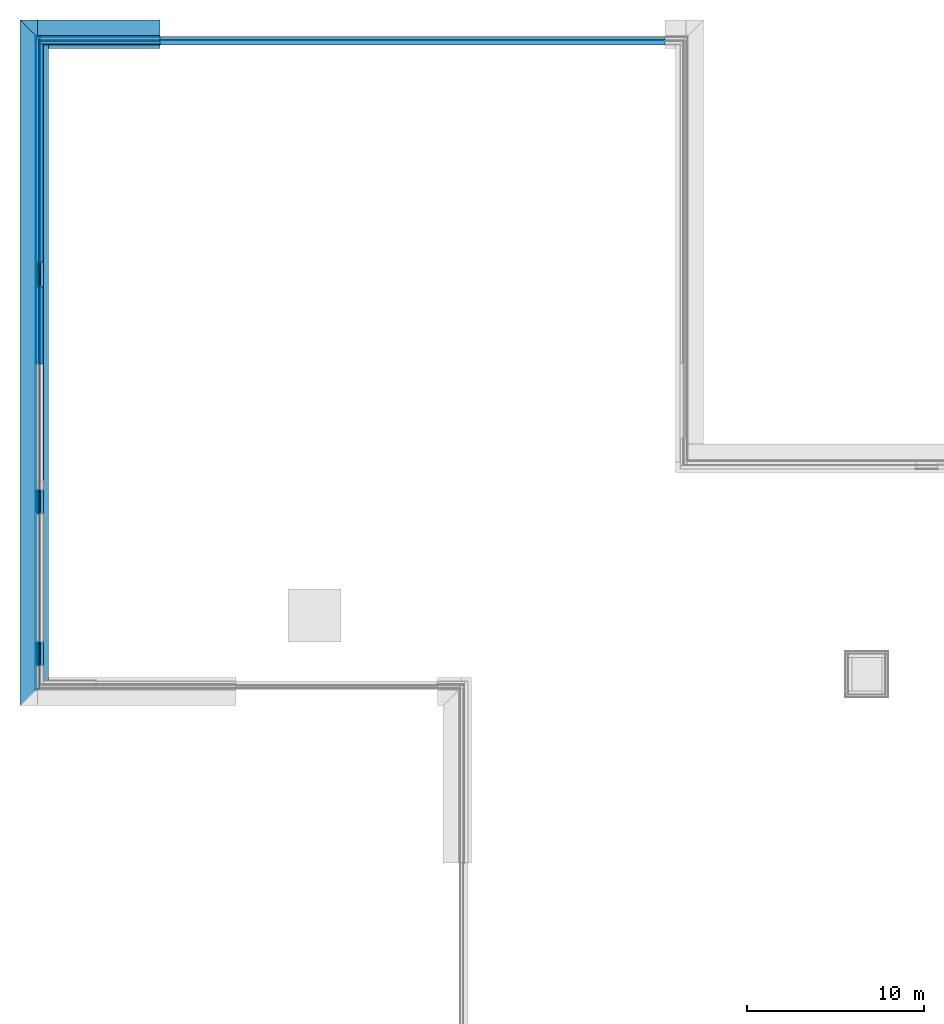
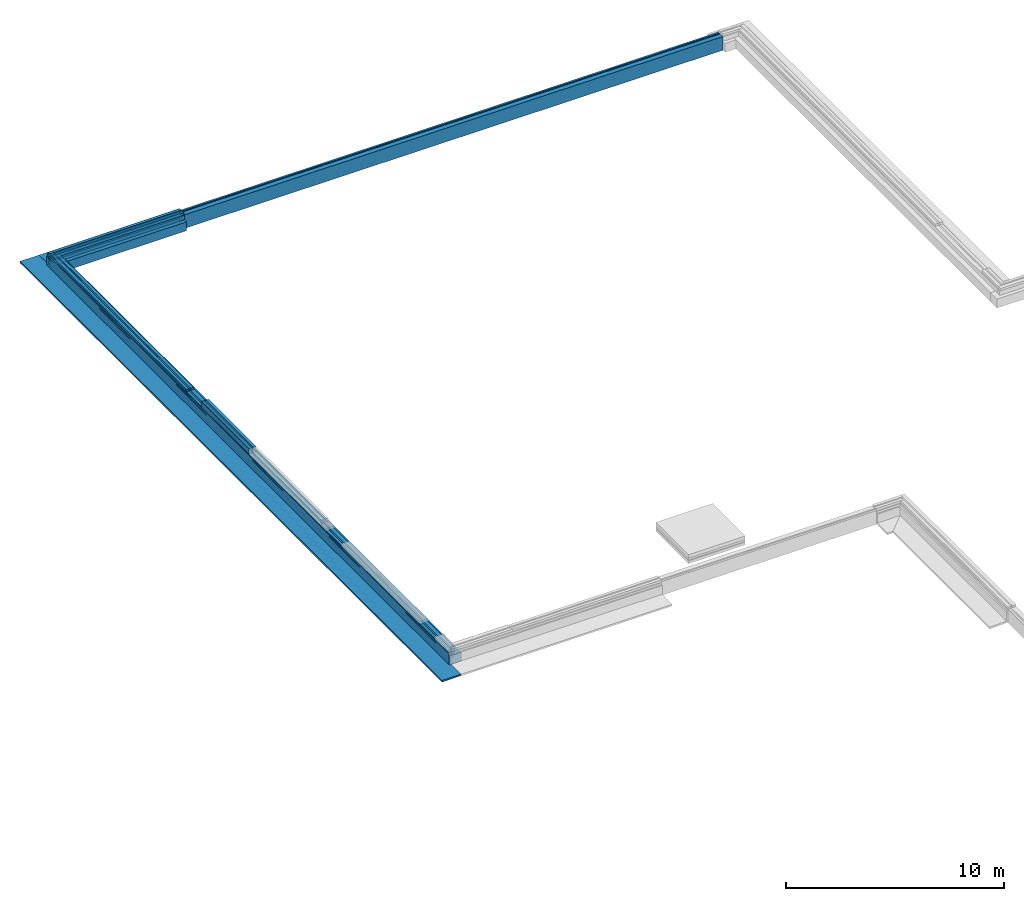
# One storey, part 12 of 17: 39 building element parts, 6 elements without a shape of their own.
"""IFC2X3 building model written with IfcOpenShell, lengths in millimetres."""

import ifcopenshell
import ifcopenshell.guid

model = None  # the IFC model being written
_history = None  # IfcOwnerHistory: only IFC2X3 demands one
_inside = {}  # id of a spatial element -> (the spatial element, [elements in it])
_under = {}  # id of a project, library or spatial element -> (it, [spatial elements below it])
_declared = {}  # id of a project -> (the project, [libraries it declares])
_typed = {}  # id of a type object -> (the type object, [elements of that type])
_made_of = {}  # id of a material, layer set ... -> (it, [elements and type objects made of it])


def new_model(schema):
    """Start an empty IFC model of exactly this schema.

    Asked for "IFC4X3", IfcOpenShell would pick the latest addendum, in which some entities
    have other attributes; the version numbers below select the first issue.
    IFC2X3 requires an IfcOwnerHistory on every rooted entity: one is made here for all.
    """
    global model, _history
    if schema == "IFC4X3":
        model = ifcopenshell.file(schema_version=(4, 3, 0, 0))
    else:
        model = ifcopenshell.file(schema=schema)
    _inside.clear()
    _under.clear()
    _declared.clear()
    _typed.clear()
    _made_of.clear()
    _history = None
    if model.schema == "IFC2X3":
        org = make("IfcOrganization", Name="unknown")
        user = make(
            "IfcPersonAndOrganization",
            ThePerson=make("IfcPerson", FamilyName="unknown"),
            TheOrganization=org,
        )
        app = make(
            "IfcApplication",
            ApplicationDeveloper=org,
            Version="unknown",
            ApplicationFullName="unknown",
            ApplicationIdentifier="unknown",
        )
        _history = make(
            "IfcOwnerHistory",
            OwningUser=user,
            OwningApplication=app,
            ChangeAction="ADDED",
            CreationDate=0,
        )
    return model


def make(cls, **values):
    """One entity of the class cls with the attributes given. An attribute that is None is left unset."""
    return model.create_entity(
        cls, **{name: value for name, value in values.items() if value is not None}
    )


def entity(cls, *values):
    """Any entity or typed value of the class cls, its attributes in the order of the schema. None: left unset."""
    e = model.create_entity(cls)
    for i, value in enumerate(values):
        if value is not None:
            e[i] = value
    return e


def rooted(cls, **values):
    """An entity with a GlobalId (a new one), such as an element, a storey or a relation."""
    return make(cls, GlobalId=ifcopenshell.guid.new(), OwnerHistory=_history, **values)


def si_unit(unit_type, name, prefix=None):
    """IfcSIUnit, for example si_unit("LENGTHUNIT", "METRE", prefix="MILLI")."""
    return make("IfcSIUnit", UnitType=unit_type, Prefix=prefix, Name=name)


def converted_unit(unit_type, name, factor, base, dimensions=None, offset=None):
    """IfcConversionBasedUnit, such as the inch: factor (a typed value) times the base unit."""
    return make(
        "IfcConversionBasedUnit"
        if offset is None
        else "IfcConversionBasedUnitWithOffset",
        ConversionOffset=offset,
        Dimensions=None
        if dimensions is None
        else entity("IfcDimensionalExponents", *dimensions),
        UnitType=unit_type,
        Name=name,
        ConversionFactor=make(
            "IfcMeasureWithUnit", ValueComponent=factor, UnitComponent=base
        ),
    )


def derived_unit(unit_type, elements):
    """IfcDerivedUnit: a product of units, each with its exponent."""
    return make(
        "IfcDerivedUnit",
        Elements=[
            make("IfcDerivedUnitElement", Unit=unit, Exponent=power)
            for unit, power in elements
        ],
        UnitType=unit_type,
    )


def money_unit(currency):
    """IfcMonetaryUnit."""
    return make("IfcMonetaryUnit", Currency=currency)


def assignment(units):
    """IfcUnitAssignment: the units of a project."""
    return None if units is None else make("IfcUnitAssignment", Units=units)


def point(xyz):
    """IfcCartesianPoint."""
    return None if xyz is None else make("IfcCartesianPoint", Coordinates=xyz)


def direction(xyz):
    """IfcDirection."""
    return None if xyz is None else make("IfcDirection", DirectionRatios=xyz)


def frame(location, z_axis=None, x_axis=None):
    """IfcAxis2Placement3D, a coordinate frame: its origin and axes. An axis left out is left unset."""
    return make(
        "IfcAxis2Placement3D",
        Location=point(location),
        Axis=direction(z_axis),
        RefDirection=direction(x_axis),
    )


def origin_with_axes():
    """The frame at (0, 0, 0) with the z axis (0, 0, 1) and the x axis (1, 0, 0) written out."""
    return frame((0.0, 0.0, 0.0), z_axis=(0.0, 0.0, 1.0), x_axis=(1.0, 0.0, 0.0))


def place(relative_to, where):
    """IfcLocalPlacement: puts the frame where relative to a parent placement (None: the world)."""
    return make(
        "IfcLocalPlacement", PlacementRelTo=relative_to, RelativePlacement=where
    )


def context(
    kind, dimensions, precision=None, world=None, true_north=None, identifier=None
):
    """IfcGeometricRepresentationContext, for example the 3D "Model" context."""
    return make(
        "IfcGeometricRepresentationContext",
        ContextIdentifier=identifier,
        ContextType=kind,
        CoordinateSpaceDimension=dimensions,
        Precision=precision,
        WorldCoordinateSystem=world,
        TrueNorth=true_north,
    )


def subcontext(parent, identifier, kind, view, scale=None):
    """IfcGeometricRepresentationSubContext, for example "Body" below "Model"."""
    return make(
        "IfcGeometricRepresentationSubContext",
        ContextIdentifier=identifier,
        ContextType=kind,
        ParentContext=parent,
        TargetScale=scale,
        TargetView=view,
    )


def project(units=None, contexts=None):
    """IfcProject with its units and contexts."""
    return rooted(
        "IfcProject",
        Name="project",
        RepresentationContexts=contexts,
        UnitsInContext=assignment(units),
    )


def spatial(cls, under=None, at=None, **own):
    """A site, building, storey or space (cls), placed at a placement, below another one or the project."""
    s = rooted(cls, ObjectPlacement=at, **own)
    if under is not None:
        _under.setdefault(under.id(), (under, []))[1].append(s)
    return s


def faces_of(points, faces, orient=None, outer=None):
    """IfcFace entities. A face is a list of loops; a loop is a list of indices into points, from 0.

    orient and outer hold one flag for each loop. By default every Orientation is true, the
    first loop of a face is its IfcFaceOuterBound and the others are IfcFaceBound.
    """
    made = []
    for i, loops in enumerate(faces):
        bounds = []
        for j, loop in enumerate(loops):
            is_outer = j == 0 if outer is None else outer[i][j]
            bounds.append(
                make(
                    "IfcFaceOuterBound" if is_outer else "IfcFaceBound",
                    Bound=make("IfcPolyLoop", Polygon=[points[k] for k in loop]),
                    Orientation=True if orient is None else orient[i][j],
                )
            )
        made.append(make("IfcFace", Bounds=bounds))
    return made


def faceted_brep(points, faces, orient=None, outer=None, voids=None):
    """IfcFacetedBrep: a solid bounded by flat faces; with voids (closed shells), ...WithVoids."""
    shared = [point(p) for p in points]
    hull = make("IfcClosedShell", CfsFaces=faces_of(shared, faces, orient, outer))
    if voids is None:
        return make("IfcFacetedBrep", Outer=hull)
    return make(
        "IfcFacetedBrepWithVoids",
        Outer=hull,
        Voids=[
            make(cls, CfsFaces=faces_of(shared, fs, o, b)) for cls, fs, o, b in voids
        ],
    )


def shape(context_of_items, identifier, shape_type, items):
    """IfcShapeRepresentation: the items that make up one representation, for example the "Body"."""
    return make(
        "IfcShapeRepresentation",
        ContextOfItems=context_of_items,
        RepresentationIdentifier=identifier,
        RepresentationType=shape_type,
        Items=items,
    )


def material(Name=None, Category=None):
    """IfcMaterial."""
    return make("IfcMaterial", Name=Name, Category=Category)


def made_of(thing, what):
    """Note that an element or type object is made of a material, layer set ...; save() writes the relation."""
    if what is not None:
        _made_of.setdefault(what.id(), (what, []))[1].append(thing)
    return thing


def type_object(cls, material=None, **own):
    """A type object (cls), such as IfcWallType, which elements share."""
    return made_of(rooted(cls, **own), material)


def element(
    cls,
    number,
    at=None,
    inside=None,
    cuts=None,
    type_object=None,
    material=None,
    context=None,
    identifier="Body",
    shape_type=None,
    held_by="IfcProductDefinitionShape",
    body=None,
    shapes=None,
    **own,
):
    """One element of the class cls, such as IfcWall. Its Tag is "e" and its number.

    at: its placement. inside: the storey or other place that contains it. cuts: it is an
    opening in that element (IfcRelVoidsElement). A single representation is given by context,
    identifier, shape_type and body (its items); several are given by shapes. held_by: the class
    of the entity that holds the representations. save() writes the other relations.
    """
    e = rooted(cls, Tag="e%d" % number, ObjectPlacement=at, **own)
    if body is not None:
        shapes = [shape(context, identifier, shape_type, body)]
    if shapes is not None:
        e.Representation = make(held_by, Representations=shapes)
    if inside is not None:
        _inside.setdefault(inside.id(), (inside, []))[1].append(e)
    if cuts is not None:
        rooted(
            "IfcRelVoidsElement", RelatingBuildingElement=cuts, RelatedOpeningElement=e
        )
    if type_object is not None:
        _typed.setdefault(type_object.id(), (type_object, []))[1].append(e)
    return made_of(e, material)


def aggregate(whole, parts):
    """IfcRelAggregates: a whole, such as a stair, and the parts it consists of."""
    return rooted("IfcRelAggregates", RelatingObject=whole, RelatedObjects=parts)


def save(model, path):
    """Write the relations noted so far, then the file.

    IfcRelAggregates (storeys below a building ...), IfcRelContainedInSpatialStructure (elements
    in a storey), IfcRelDefinesByType, IfcRelAssociatesMaterial and IfcRelDeclares: one each for
    every whole, place, type object, material and project.
    """
    for whole, parts in _under.values():
        aggregate(whole, parts)
    for where, things in _inside.values():
        rooted(
            "IfcRelContainedInSpatialStructure",
            RelatedElements=things,
            RelatingStructure=where,
        )
    for kind, things in _typed.values():
        rooted("IfcRelDefinesByType", RelatedObjects=things, RelatingType=kind)
    for what, things in _made_of.values():
        rooted("IfcRelAssociatesMaterial", RelatedObjects=things, RelatingMaterial=what)
    for by, libraries in _declared.values():
        rooted("IfcRelDeclares", RelatingContext=by, RelatedDefinitions=libraries)
    model.write(path)


model = new_model("IFC2X3")

# Units and contexts
model_context = context("Model", 3, precision=0.01, world=origin_with_axes(), true_north=direction((0.0, 1.0)))
body_context = subcontext(model_context, "Body", "Model", "MODEL_VIEW")
ifc_project = project(units=[si_unit("LENGTHUNIT", "METRE", prefix="MILLI"), si_unit("AREAUNIT", "SQUARE_METRE"), si_unit("VOLUMEUNIT", "CUBIC_METRE"), converted_unit("PLANEANGLEUNIT", "DEGREE", entity("IfcPlaneAngleMeasure", 0.0174532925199), si_unit("PLANEANGLEUNIT", "RADIAN"), dimensions=[0, 0, 0, 0, 0, 0, 0]), money_unit("EUR"), converted_unit("TIMEUNIT", "Year", entity("IfcTimeMeasure", 31556926.0), si_unit("TIMEUNIT", "SECOND"), dimensions=[0, 0, 1, 0, 0, 0, 0]), si_unit("MASSUNIT", "GRAM", prefix="KILO"), si_unit("THERMODYNAMICTEMPERATUREUNIT", "DEGREE_CELSIUS"), si_unit("LUMINOUSINTENSITYUNIT", "LUMEN"), si_unit("ENERGYUNIT", "JOULE", prefix="MEGA"), derived_unit("THERMALCONDUCTANCEUNIT", [(si_unit("POWERUNIT", "WATT"), 1), (si_unit("LENGTHUNIT", "METRE"), -1), (si_unit("THERMODYNAMICTEMPERATUREUNIT", "KELVIN"), -1)]), derived_unit("SPECIFICHEATCAPACITYUNIT", [(si_unit("ENERGYUNIT", "JOULE"), 1), (si_unit("MASSUNIT", "GRAM", prefix="KILO"), -1), (si_unit("THERMODYNAMICTEMPERATUREUNIT", "KELVIN"), -1)]), derived_unit("MASSDENSITYUNIT", [(si_unit("MASSUNIT", "GRAM", prefix="KILO"), 1), (si_unit("VOLUMEUNIT", "CUBIC_METRE"), -1)])], contexts=[model_context])

# Site, building, storey
site_placement = place(None, origin_with_axes())
site = spatial("IfcSite", under=ifc_project, at=site_placement, Name="Kolde pst 67a", CompositionType="ELEMENT")
building_placement = place(site_placement, origin_with_axes())
building = spatial("IfcBuilding", under=site, at=building_placement, Name="Riigigümnaasium", CompositionType="ELEMENT")
storey_placement = place(building_placement, frame((0.0, 0.0, -1500.0), z_axis=(0.0, 0.0, 1.0), x_axis=(1.0, 0.0, 0.0)))
storey = spatial("IfcBuildingStorey", under=building, at=storey_placement, Name="Vundament", CompositionType="ELEMENT", Elevation=-1500.0)

# Wall, building element parts
wall_type_1 = type_object("IfcWallType", Name="Lintvundament C plokk 1602 x 765", PredefinedType="NOTDEFINED")
wall_1_placement = place(storey_placement, frame((40.0563582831, 84439.9999586, 1479.99999851), z_axis=(0.0, 0.0, 1.0), x_axis=(0.0, -1.0, 0.0)))
wall_1 = element("IfcWall", 1, at=wall_1_placement, inside=storey, type_object=wall_type_1, Name="Vundament")
ifc_material_1 = material(Name="_KANDETARIND - monoliitne raudbetoon vastavalt EK osale")
building_element_part_1_placement = place(wall_1_placement, origin_with_axes())
building_element_part_1 = element("IfcBuildingElementPart", 2, at=building_element_part_1_placement, material=ifc_material_1, Name="_KANDETARIND - monoliitne raudbetoon vastavalt EK osale", context=body_context, shape_type="Brep", body=[
    faceted_brep([(36600.0765644, -140.057444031, -750.0), (36600.0765644, -140.057444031, -250.000008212), (-200.057437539, -140.057444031, -250.000008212), (-200.057437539, -140.057444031, -750.0), (36600.0765644, 459.942555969, -750.0), (36600.0765644, 459.942555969, -250.000008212), (36600.0765644, 200.0, -250.000004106), (36600.0765644, 0.0, -250.000004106), (36400.0191268, 200.0, -250.0), (36400.0191268, 0.0, -250.0), (0.0, 0.0, -250.0), (0.0, 200.0, -250.0), (-200.057437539, 200.0, -250.000004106), (-200.057437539, 0.0, -250.000004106), (-200.057437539, 459.942555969, -250.000008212), (-200.057437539, 459.942555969, -750.0), (36400.0191268, 0.0, -2.22568302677e-06), (36400.0191268, 200.0, -2.22568302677e-06), (0.0, 0.0, 3.16444204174e-07), (0.0, 200.0, 3.16444204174e-07)], [[[0, 1, 2, 3]], [[1, 0, 4, 5, 6, 7]], [[1, 7, 6, 8, 9, 10, 11, 12, 13, 2]], [[3, 2, 13, 12, 14, 15]], [[0, 3, 15, 4]], [[5, 4, 15, 14]], [[8, 6, 5, 14, 12, 11]], [[16, 9, 8, 17]], [[10, 9, 16, 18]], [[11, 10, 18, 19]], [[17, 8, 11, 19]], [[16, 17, 19, 18]]]),
])
ifc_material_2 = material(Name="_SOOJUSTUS - ekstrudeeritud polüstüreenist plaadid XPS 250, survetugevus min 250kPa, soojuserijuhtivus λD<0,036 W/(mK), veeimavus alla 0,2%, näiteks XPS 250 foam SL või samaväärne")
building_element_part_2_placement = place(wall_1_placement, origin_with_axes())
building_element_part_2 = element("IfcBuildingElementPart", 3, at=building_element_part_2_placement, material=ifc_material_2, Name="_SOOJUSTUS - ekstrudeeritud polüstüreenist plaadid XPS 250, survetugevus min 250kPa, soojuserijuhtivus λD<0,036 W/(mK), veeimavus alla 0,2%, näiteks XPS 250 foam SL või samaväärne", context=body_context, shape_type="Brep", body=[
    faceted_brep([(36473.0191282, -73.00000242, -146.99999851), (36473.0191282, -73.00000242, -2.23078107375e-06), (-73.0000013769, -73.00000242, -2.23078107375e-06), (-73.0000013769, -73.00000242, -146.99999851), (36473.0191282, -3.00000241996, -146.99999851), (36473.0191282, -3.00000241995, -2.23078107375e-06), (-73.0000013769, -3.00000241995, -2.23078107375e-06), (-73.0000013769, -3.00000241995, -146.99999851)], [[[0, 1, 2, 3]], [[1, 0, 4, 5]], [[2, 1, 5, 6]], [[3, 2, 6, 7]], [[0, 3, 7, 4]], [[5, 4, 7, 6]]]),
])
ifc_material_3 = material(Name="_SOOJUSTUS - vahtpolüstüreenplaadid EPS 120 Perimeeter, survetugevus min 120kPa, veeimavus <2%, soojuserijuhtivus λD<0,036 W/(mK)")
building_element_part_3_placement = place(wall_1_placement, origin_with_axes())
building_element_part_3 = element("IfcBuildingElementPart", 4, at=building_element_part_3_placement, material=ifc_material_3, Name="_SOOJUSTUS - vahtpolüstüreenplaadid EPS 120 Perimeeter, survetugevus min 120kPa, veeimavus <2%, soojuserijuhtivus λD<0,036 W/(mK)", context=body_context, shape_type="Brep", body=[
    faceted_brep([(-303.057440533, -3.00000241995, -247.000001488), (-303.057440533, -3.00000241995, -146.999992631), (36703.0765673, -3.00000241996, -146.999992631), (36703.0765673, -3.00000241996, -247.000001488), (-303.057440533, -243.057440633, -146.999992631), (-303.057440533, -243.057440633, -247.000001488), (36703.0765673, -243.057440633, -146.999992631), (36703.0765673, -243.057440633, -247.000001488)], [[[0, 1, 2, 3]], [[4, 1, 0, 5]], [[1, 4, 6, 2]], [[3, 2, 6, 7]], [[5, 0, 3, 7]], [[4, 5, 7, 6]]]),
])
ifc_material_4 = material(Name="_HÜDROISOLATSIOON - Bituumenvõõp COMBIFLEX-EL vastavalt TL2 nõuetele")
building_element_part_4_placement = place(wall_1_placement, origin_with_axes())
building_element_part_4 = element("IfcBuildingElementPart", 5, at=building_element_part_4_placement, material=ifc_material_4, Name="_HÜDROISOLATSIOON - Bituumenvõõp COMBIFLEX-EL vastavalt TL2 nõuetele", context=body_context, shape_type="Brep", body=[
    faceted_brep([(-3.00000241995, 0.0, -3.7612034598e-06), (36403.0191292, 0.0, -3.7612034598e-06), (36403.0191292, 0.0, -247.000001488), (36603.0765708, 0.0, -247.000001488), (36603.0765708, 0.0, -250.000007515), (-203.057444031, 0.0, -250.000007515), (-203.057444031, 0.0, -247.000001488), (-3.00000241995, 0.0, -247.000001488), (-3.00000241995, -3.00000118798, -3.7612034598e-06), (36403.0191292, -3.00000118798, -3.7612034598e-06), (36403.0191292, -3.00000118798, -247.000001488), (36603.0765708, -143.057433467, -246.99999851), (36603.0765708, -3.00000118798, -247.000001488), (-3.00000241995, -3.00000118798, -247.000001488), (-203.057444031, -3.00000118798, -247.000001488), (-203.057444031, -143.057433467, -246.99999851), (36603.0765708, -140.057449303, -250.000007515), (36603.0765708, -143.057433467, -729.999997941), (36603.0765612, -143.057433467, -750.000015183), (36603.0765612, -140.057449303, -750.000015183), (-203.057444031, -140.057449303, -250.000007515), (-203.057434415, -140.057449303, -750.000015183), (-203.057434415, -143.057433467, -750.000015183), (-203.057444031, -143.057433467, -729.999997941)], [[[0, 1, 2, 3, 4, 5, 6, 7]], [[0, 8, 9, 1]], [[9, 10, 2, 1]], [[11, 12, 3, 2, 10, 13, 7, 6, 14, 15]], [[16, 4, 3, 12, 11, 17, 18, 19]], [[20, 5, 4, 16]], [[14, 6, 5, 20, 21, 22, 23, 15]], [[8, 0, 7, 13]], [[8, 13, 10, 9]], [[15, 23, 17, 11]], [[23, 22, 18, 17]], [[22, 21, 19, 18]], [[20, 16, 19, 21]]]),
])
building_element_part_5_placement = place(wall_1_placement, origin_with_axes())
building_element_part_5 = element("IfcBuildingElementPart", 6, at=building_element_part_5_placement, material=ifc_material_3, Name="_SOOJUSTUS - vahtpolüstüreenplaadid EPS 120 Perimeeter, survetugevus min 120kPa, veeimavus <2%, soojuserijuhtivus λD<0,036 W/(mK)", context=body_context, shape_type="Brep", body=[
    faceted_brep([(36623.0191284, -223.000003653, -146.999998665), (36623.0191284, -223.000003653, -1.37334278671e-06), (-223.000001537, -223.000003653, -1.37334278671e-06), (-223.000001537, -223.000003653, -146.999998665), (36623.0191284, -73.0000021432, -146.999998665), (36623.0191284, -73.0000021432, -1.37334278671e-06), (-223.000001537, -73.0000021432, -1.37334278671e-06), (-223.000001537, -73.0000021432, -146.999998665)], [[[0, 1, 2, 3]], [[1, 0, 4, 5]], [[1, 5, 6, 2]], [[6, 7, 3, 2]], [[4, 0, 3, 7]], [[5, 4, 7, 6]]]),
])
ifc_material_5 = material(Name="_TUULETÕKE - sokli krohv, silikoonvaikkrohv Weber.pas 481 AquaBalance 1mm \"scratch\" viimistlus, toon helehall CL444 (S 3502-Y) * 35, SILS süsteem, või samaväärne")
building_element_part_6_placement = place(wall_1_placement, origin_with_axes())
building_element_part_6 = element("IfcBuildingElementPart", 7, at=building_element_part_6_placement, material=ifc_material_5, Name="_TUULETÕKE - sokli krohv, silikoonvaikkrohv Weber.pas 481 AquaBalance 1mm \"scratch\" viimistlus, toon helehall CL444 (S 3502-Y) * 35, SILS süsteem, või samaväärne", context=body_context, shape_type="Brep", body=[
    faceted_brep([(36633.0191293, -233.000000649, -146.999999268), (36633.0191395, -232.999999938, -29.9999875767), (-233.000012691, -232.999999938, -29.9999875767), (-233.000002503, -233.000000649, -146.999999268), (36633.0191395, -233.000000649, 3.32716632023e-07), (36633.0191293, -223.000003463, -146.999999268), (36633.0191395, -223.000003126, 3.32716632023e-07), (-233.000012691, -233.000000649, 3.32716632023e-07), (-233.000012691, -223.000003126, 3.32716632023e-07), (-233.000002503, -223.000003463, -146.999999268)], [[[0, 1, 2, 3]], [[4, 1, 0, 5, 6]], [[1, 4, 7, 2]], [[2, 7, 8, 9, 3]], [[0, 3, 9, 5]], [[6, 5, 9, 8]], [[7, 4, 6, 8]]]),
])
ifc_material_6 = material(Name="_HÜDROISOLATSIOON - tsemendil baseeruv ühekomponentne hüdroisolatsioon hüdroisoleerimiseks sokli krohvi pealt, ülevärvitud silikoonvaikvärviga sokli krohvi tooni, Weber.tec 824 ja Weber.ton 411 AquaBalance toon CL444 (S 3502-Y) * 35 või samaväärne")
building_element_part_7_placement = place(wall_1_placement, origin_with_axes())
building_element_part_7 = element("IfcBuildingElementPart", 8, at=building_element_part_7_placement, material=ifc_material_6, Name="_HÜDROISOLATSIOON - tsemendil baseeruv ühekomponentne hüdroisolatsioon hüdroisoleerimiseks sokli krohvi pealt, ülevärvitud silikoonvaikvärviga sokli krohvi tooni, Weber.tec 824 ja Weber.ton 411 AquaBalance toon CL444 (S 3502-Y) * 35 või samaväärne", context=body_context, shape_type="Brep", body=[
    faceted_brep([(-234.999993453, -232.999999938, -146.999992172), (-234.999993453, -232.999999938, -29.9999946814), (36635.0191203, -232.999999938, -29.9999946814), (36635.0191203, -232.999999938, -146.999992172), (-234.999993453, -235.000002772, -29.9999946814), (-234.999993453, -235.000002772, -146.999992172), (36635.0191203, -235.000002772, -29.9999946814), (36635.0191203, -235.000002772, -146.999992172)], [[[0, 1, 2, 3]], [[4, 1, 0, 5]], [[1, 4, 6, 2]], [[3, 2, 6, 7]], [[5, 0, 3, 7]], [[4, 5, 7, 6]]]),
])
building_element_part_8_placement = place(wall_1_placement, origin_with_axes())
building_element_part_8 = element("IfcBuildingElementPart", 9, at=building_element_part_8_placement, material=ifc_material_3, Name="_SOOJUSTUS - vahtpolüstüreenplaadid EPS 120 Perimeeter, survetugevus min 120kPa, veeimavus <2%, soojuserijuhtivus λD<0,036 W/(mK)", context=body_context, shape_type="Brep", body=[
    faceted_brep([(-303.057440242, -143.057441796, -629.93015656), (-303.057440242, -143.057441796, -247.000001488), (36703.0765671, -143.057441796, -247.000001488), (36703.0765671, -143.057441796, -629.93015656), (-303.057440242, -243.057443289, -247.000001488), (-303.057440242, -243.057443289, -629.93015656), (36703.0765671, -243.057443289, -247.000001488), (36703.0765671, -243.057443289, -629.93015656), (-303.057564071, -243.057443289, -633.422240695), (36703.0766909, -243.057443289, -633.422240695)], [[[0, 1, 2, 3]], [[4, 1, 0, 5]], [[1, 4, 6, 2]], [[3, 2, 6, 7]], [[8, 0, 3, 9]], [[5, 0, 8]], [[4, 5, 8, 9, 7, 6]], [[3, 7, 9]]]),
])
ifc_material_7 = material(Name="_ALUSKATE - drenaaži- ja kaitsematt geotekstiiliga soojustuse kaitseks, Interplast Iso-Drain 8 Geo või samaväärne")
building_element_part_9_placement = place(wall_1_placement, origin_with_axes())
building_element_part_9 = element("IfcBuildingElementPart", 10, at=building_element_part_9_placement, material=ifc_material_7, Name="_ALUSKATE - drenaaži- ja kaitsematt geotekstiiliga soojustuse kaitseks, Interplast Iso-Drain 8 Geo või samaväärne", context=body_context, shape_type="Brep", body=[
    faceted_brep([(-244.999994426, -235.000000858, -137.03058496), (-244.999994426, -235.000000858, -29.9999875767), (36645.0191212, -235.000000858, -29.9999875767), (36645.0191212, -235.000000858, -137.03058496), (36713.0765789, -235.000000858, -137.03058496), (36713.0765789, -235.000000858, -146.999992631), (-313.057452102, -235.000000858, -146.999992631), (-313.057452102, -235.000000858, -137.03058496), (-244.999994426, -245.000012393, -29.9999875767), (-244.999994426, -253.057449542, -137.03058496), (-244.999994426, -253.057449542, -136.999995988), (-244.999994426, -245.000012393, -136.999995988), (36645.0191212, -245.000012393, -29.9999875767), (36645.0191212, -245.000012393, -136.999995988), (36645.0191212, -253.057449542, -136.999995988), (36645.0191212, -253.057449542, -137.03058496), (36713.0765789, -253.057449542, -137.03058496), (36713.0765789, -253.057449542, -633.771442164), (36713.0765789, -243.057438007, -633.422236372), (36713.0765789, -243.057438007, -146.999992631), (-313.057452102, -243.057438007, -146.999992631), (-313.057452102, -243.057438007, -633.422236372), (-313.057452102, -253.057449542, -633.771442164), (-313.057452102, -253.057449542, -137.03058496)], [[[0, 1, 2, 3, 4, 5, 6, 7]], [[8, 1, 0, 9, 10, 11]], [[1, 8, 12, 2]], [[3, 2, 12, 13, 14, 15]], [[4, 3, 15, 16]], [[5, 4, 16, 17, 18, 19]], [[20, 6, 5, 19]], [[7, 6, 20, 21, 22, 23]], [[0, 7, 23, 9]], [[23, 22, 17, 16, 15, 14, 10, 9]], [[11, 10, 14, 13]], [[8, 11, 13, 12]], [[22, 21, 18, 17]], [[21, 20, 19, 18]]]),
])
building_element_part_10_placement = place(wall_1_placement, origin_with_axes())
building_element_part_10 = element("IfcBuildingElementPart", 11, at=building_element_part_10_placement, material=ifc_material_3, Name="_SOOJUSTUS - vahtpolüstüreenplaadid EPS 120 Perimeeter, survetugevus min 120kPa, veeimavus <2%, soojuserijuhtivus λD<0,036 W/(mK)", context=body_context, shape_type="Brep", body=[
    faceted_brep([(-313.057436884, -253.057449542, -633.771447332), (-203.057444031, -143.057441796, -629.930162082), (-313.057436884, -143.057441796, -633.771447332), (-1202.46587712, -143.057441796, -664.830280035), (-1202.46587712, -1142.46587935, -664.830280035), (36713.0765637, -253.057449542, -633.771447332), (36603.0765708, -143.057441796, -629.930162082), (36713.0765637, -143.057441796, -633.771447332), (37602.4850039, -143.057441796, -664.830280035), (37600.2092233, -143.057441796, -729.999997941), (-1200.19009652, -143.057441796, -729.999997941), (-1198.97592119, -1138.97592914, -764.769370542), (37602.4850039, -1142.46587935, -664.830280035), (37598.995048, -1138.97592914, -764.769370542)], [[[0, 1, 2, 3, 4]], [[1, 0, 5, 6]], [[1, 6, 7, 8, 9, 10, 3, 2]], [[3, 10, 11, 4]], [[0, 4, 12, 5]], [[8, 7, 6, 5, 12]], [[13, 9, 8, 12]], [[11, 10, 9, 13]], [[4, 11, 13, 12]]]),
])
aggregate(wall_1, [building_element_part_1, building_element_part_2, building_element_part_3, building_element_part_4, building_element_part_5, building_element_part_6, building_element_part_7, building_element_part_8, building_element_part_9, building_element_part_10])

wall_type_2 = type_object("IfcWallType", Name="VS-CLT-16/3_sokkel võimla 393", PredefinedType="NOTDEFINED")
wall_2_placement = place(storey_placement, frame((6815.53712138, 84439.9999608, 1480.0), z_axis=(0.0, 0.0, 1.0), x_axis=(-1.0, 0.0, 0.0)))
wall_2 = element("IfcWall", 12, at=wall_2_placement, inside=storey, type_object=wall_type_2, Name="Sokkel")
ifc_material_8 = material(Name="_KANDETARIND - CLT ristkihtliimpuit vastavalt EK osale, CLT paigaldusvuugid teibitakse ROTHOBLAAS teibiga")
building_element_part_11_placement = place(wall_2_placement, origin_with_axes())
building_element_part_11 = element("IfcBuildingElementPart", 13, at=building_element_part_11_placement, material=ifc_material_8, Name="_KANDETARIND - CLT ristkihtliimpuit vastavalt EK osale, CLT paigaldusvuugid teibitakse ROTHOBLAAS teibiga", context=body_context, shape_type="Brep", body=[
    faceted_brep([(6775.4807631, 0.0, 0.0), (0.0, 0.0, 0.0), (0.0, 160.0, 0.0), (6775.4807631, 160.0, 0.0), (6775.4807631, 0.0, 120.0), (0.0, 0.0, 120.0), (0.0, 160.0, 120.0), (6775.4807631, 160.0, 120.0)], [[[0, 1, 2, 3]], [[4, 5, 1, 0]], [[2, 1, 5, 6]], [[3, 2, 6, 7]], [[3, 7, 4, 0]], [[7, 6, 5, 4]]]),
])
ifc_material_9 = material(Name="_HÜDROISOLATSIOON - 3x SBS rullmaterjal vastavalt TL2 nõuetele, nakke tugevduseks betoonpind eelnevalt katta hüdroisolatsiooni bituumenvõõbaga")
building_element_part_12_placement = place(wall_2_placement, origin_with_axes())
building_element_part_12 = element("IfcBuildingElementPart", 14, at=building_element_part_12_placement, material=ifc_material_9, Name="_HÜDROISOLATSIOON - 3x SBS rullmaterjal vastavalt TL2 nõuetele, nakke tugevduseks betoonpind eelnevalt katta hüdroisolatsiooni bituumenvõõbaga", context=body_context, shape_type="Brep", body=[
    faceted_brep([(6778.4807631, -3.0, 0.0), (0.0, -3.0, 0.0), (0.0, 0.0, 0.0), (6778.4807631, 0.0, 0.0), (6778.4807631, -3.0, 120.0), (0.0, -3.0, 120.0), (0.0, 0.0, 120.0), (6778.4807631, 0.0, 120.0)], [[[0, 1, 2, 3]], [[4, 5, 1, 0]], [[2, 1, 5, 6]], [[3, 2, 6, 7]], [[3, 7, 4, 0]], [[7, 6, 5, 4]]]),
])
ifc_material_10 = material(Name="_SOOJUSTUS - ekstrudeeritud polüstüreenist plaadid XPS 250, soojuserijuhtivus lambdaD=0,035 W/mK, veeimavus alla 2%, näiteks Styrofoam 250 SL-A-N  või samaväärne, plaatide vuugid omavahel nihutada")
building_element_part_13_placement = place(wall_2_placement, origin_with_axes())
building_element_part_13 = element("IfcBuildingElementPart", 15, at=building_element_part_13_placement, material=ifc_material_10, Name="_SOOJUSTUS - ekstrudeeritud polüstüreenist plaadid XPS 250, soojuserijuhtivus lambdaD=0,035 W/mK, veeimavus alla 2%, näiteks Styrofoam 250 SL-A-N  või samaväärne, plaatide vuugid omavahel nihutada", context=body_context, shape_type="Brep", body=[
    faceted_brep([(6848.4807631, -73.0, 0.0), (0.0, -73.0, 0.0), (0.0, -3.0, 0.0), (6848.4807631, -3.0, 0.0), (6848.4807631, -73.0, 120.0), (0.0, -73.0, 120.0), (0.0, -3.0, 120.0), (6848.4807631, -3.0, 120.0)], [[[0, 1, 2, 3]], [[4, 5, 1, 0]], [[2, 1, 5, 6]], [[3, 2, 6, 7]], [[3, 7, 4, 0]], [[7, 6, 5, 4]]]),
])
building_element_part_14_placement = place(wall_2_placement, origin_with_axes())
building_element_part_14 = element("IfcBuildingElementPart", 16, at=building_element_part_14_placement, material=ifc_material_3, Name="_SOOJUSTUS - vahtpolüstüreenplaadid EPS 120 Perimeeter, survetugevus min 120kPa, veeimavus <2%, soojuserijuhtivus λD<0,036 W/(mK)", context=body_context, shape_type="Brep", body=[
    faceted_brep([(6998.4807631, -223.0, 0.0), (0.0, -223.0, 0.0), (0.0, -73.0, 0.0), (6998.4807631, -73.0, 0.0), (6998.4807631, -223.0, 120.0), (0.0, -223.0, 120.0), (0.0, -73.0, 120.0), (6998.4807631, -73.0, 120.0)], [[[0, 1, 2, 3]], [[4, 5, 1, 0]], [[2, 1, 5, 6]], [[3, 2, 6, 7]], [[3, 7, 4, 0]], [[7, 6, 5, 4]]]),
])
building_element_part_15_placement = place(wall_2_placement, origin_with_axes())
building_element_part_15 = element("IfcBuildingElementPart", 17, at=building_element_part_15_placement, material=ifc_material_5, Name="_TUULETÕKE - sokli krohv, silikoonvaikkrohv Weber.pas 481 AquaBalance 1mm \"scratch\" viimistlus, toon helehall CL444 (S 3502-Y) * 35, SILS süsteem, või samaväärne", context=body_context, shape_type="Brep", body=[
    faceted_brep([(7008.4807631, -233.0, 0.0), (0.0, -233.0, 0.0), (0.0, -223.0, 0.0), (7008.4807631, -223.0, 0.0), (7008.4807631, -233.0, 120.0), (0.0, -233.0, 120.0), (0.0, -223.0, 120.0), (7008.4807631, -223.0, 120.0)], [[[0, 1, 2, 3]], [[4, 5, 1, 0]], [[2, 1, 5, 6]], [[3, 2, 6, 7]], [[3, 7, 4, 0]], [[7, 6, 5, 4]]]),
])
aggregate(wall_2, [building_element_part_11, building_element_part_12, building_element_part_13, building_element_part_14, building_element_part_15])

wall_3_placement = place(storey_placement, frame((40.0563582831, 84439.9999608, 1480.0), z_axis=(0.0, 0.0, 1.0), x_axis=(0.0, -1.0, 0.0)))
wall_3 = element("IfcWall", 18, at=wall_3_placement, inside=storey, type_object=wall_type_2, Name="Sokkel")
building_element_part_16_placement = place(wall_3_placement, origin_with_axes())
building_element_part_16 = element("IfcBuildingElementPart", 19, at=building_element_part_16_placement, material=ifc_material_8, Name="_KANDETARIND - CLT ristkihtliimpuit vastavalt EK osale, CLT paigaldusvuugid teibitakse ROTHOBLAAS teibiga", context=body_context, shape_type="Brep", body=[
    faceted_brep([(12495.7046915, 160.0, 0.0), (12495.7046915, 0.0, 0.0), (160.0, 0.0, 0.0), (160.0, 160.0, 0.0), (12495.7046915, 160.0, 120.0), (12495.7046915, 0.0, 120.0), (160.0, 0.0, 120.0), (160.0, 160.0, 120.0)], [[[0, 1, 2, 3]], [[0, 4, 5, 1]], [[1, 5, 6, 2]], [[3, 2, 6, 7]], [[4, 0, 3, 7]], [[5, 4, 7, 6]]]),
])
building_element_part_17_placement = place(wall_3_placement, origin_with_axes())
building_element_part_17 = element("IfcBuildingElementPart", 20, at=building_element_part_17_placement, material=ifc_material_9, Name="_HÜDROISOLATSIOON - 3x SBS rullmaterjal vastavalt TL2 nõuetele, nakke tugevduseks betoonpind eelnevalt katta hüdroisolatsiooni bituumenvõõbaga", context=body_context, shape_type="Brep", body=[
    faceted_brep([(12495.7046915, 0.0, 0.0), (12495.7046915, -3.0, 0.0), (0.0, -3.0, 0.0), (0.0, 0.0, 0.0), (12495.7046915, 0.0, 120.0), (12495.7046915, -3.0, 120.0), (0.0, -3.0, 120.0), (0.0, 0.0, 120.0)], [[[0, 1, 2, 3]], [[0, 4, 5, 1]], [[1, 5, 6, 2]], [[3, 2, 6, 7]], [[4, 0, 3, 7]], [[5, 4, 7, 6]]]),
])
building_element_part_18_placement = place(wall_3_placement, origin_with_axes())
building_element_part_18 = element("IfcBuildingElementPart", 21, at=building_element_part_18_placement, material=ifc_material_10, Name="_SOOJUSTUS - ekstrudeeritud polüstüreenist plaadid XPS 250, soojuserijuhtivus lambdaD=0,035 W/mK, veeimavus alla 2%, näiteks Styrofoam 250 SL-A-N  või samaväärne, plaatide vuugid omavahel nihutada", context=body_context, shape_type="Brep", body=[
    faceted_brep([(12495.7046915, -3.0, 0.0), (12495.7046915, -73.0, 0.0), (-3.0, -73.0, 0.0), (-3.0, -3.0, 0.0), (12495.7046915, -3.0, 120.0), (12495.7046915, -73.0, 120.0), (-3.0, -73.0, 120.0), (-3.0, -3.0, 120.0)], [[[0, 1, 2, 3]], [[0, 4, 5, 1]], [[1, 5, 6, 2]], [[3, 2, 6, 7]], [[4, 0, 3, 7]], [[5, 4, 7, 6]]]),
])
building_element_part_19_placement = place(wall_3_placement, origin_with_axes())
building_element_part_19 = element("IfcBuildingElementPart", 22, at=building_element_part_19_placement, material=ifc_material_3, Name="_SOOJUSTUS - vahtpolüstüreenplaadid EPS 120 Perimeeter, survetugevus min 120kPa, veeimavus <2%, soojuserijuhtivus λD<0,036 W/(mK)", context=body_context, shape_type="Brep", body=[
    faceted_brep([(12495.7046915, -73.0, 0.0), (12495.7046915, -223.0, 0.0), (-73.0, -223.0, 0.0), (-73.0, -73.0, 0.0), (12495.7046915, -73.0, 120.0), (12495.7046915, -223.0, 120.0), (-73.0, -223.0, 120.0), (-73.0, -73.0, 120.0)], [[[0, 1, 2, 3]], [[0, 4, 5, 1]], [[1, 5, 6, 2]], [[3, 2, 6, 7]], [[4, 0, 3, 7]], [[5, 4, 7, 6]]]),
])
building_element_part_20_placement = place(wall_3_placement, origin_with_axes())
building_element_part_20 = element("IfcBuildingElementPart", 23, at=building_element_part_20_placement, material=ifc_material_5, Name="_TUULETÕKE - sokli krohv, silikoonvaikkrohv Weber.pas 481 AquaBalance 1mm \"scratch\" viimistlus, toon helehall CL444 (S 3502-Y) * 35, SILS süsteem, või samaväärne", context=body_context, shape_type="Brep", body=[
    faceted_brep([(12495.7046915, -223.0, 0.0), (12495.7046915, -233.0, 0.0), (-223.0, -233.0, 0.0), (-223.0, -223.0, 0.0), (12495.7046915, -223.0, 120.0), (12495.7046915, -233.0, 120.0), (-223.0, -233.0, 120.0), (-223.0, -223.0, 120.0)], [[[0, 1, 2, 3]], [[0, 4, 5, 1]], [[1, 5, 6, 2]], [[3, 2, 6, 7]], [[4, 0, 3, 7]], [[5, 4, 7, 6]]]),
])
aggregate(wall_3, [building_element_part_16, building_element_part_17, building_element_part_18, building_element_part_19, building_element_part_20])

wall_4_placement = place(storey_placement, frame((40.0563582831, 70545.0000053, 1480.0), z_axis=(0.0, 0.0, 1.0), x_axis=(0.0, -1.0, 0.0)))
wall_4 = element("IfcWall", 24, at=wall_4_placement, inside=storey, type_object=wall_type_2, Name="Sokkel")
building_element_part_21_placement = place(wall_4_placement, origin_with_axes())
building_element_part_21 = element("IfcBuildingElementPart", 25, at=building_element_part_21_placement, material=ifc_material_8, Name="_KANDETARIND - CLT ristkihtliimpuit vastavalt EK osale, CLT paigaldusvuugid teibitakse ROTHOBLAAS teibiga", context=body_context, shape_type="Brep", body=[
    faceted_brep([(4365.27695778, 160.0, 0.0), (4365.27695778, 0.0, 0.0), (0.0, 0.0, 0.0), (0.0, 160.0, 0.0), (4365.27695778, 160.0, 300.0), (4365.27695778, 0.0, 300.0), (0.0, 0.0, 300.0), (0.0, 160.0, 300.0)], [[[0, 1, 2, 3]], [[0, 4, 5, 1]], [[1, 5, 6, 2]], [[3, 2, 6, 7]], [[4, 0, 3, 7]], [[5, 4, 7, 6]]]),
])
building_element_part_22_placement = place(wall_4_placement, origin_with_axes())
building_element_part_22 = element("IfcBuildingElementPart", 26, at=building_element_part_22_placement, material=ifc_material_9, Name="_HÜDROISOLATSIOON - 3x SBS rullmaterjal vastavalt TL2 nõuetele, nakke tugevduseks betoonpind eelnevalt katta hüdroisolatsiooni bituumenvõõbaga", context=body_context, shape_type="Brep", body=[
    faceted_brep([(4365.27695778, 0.0, 0.0), (4365.27695778, -3.0, 0.0), (0.0, -3.0, 0.0), (0.0, 0.0, 0.0), (4365.27695778, 0.0, 300.0), (4365.27695778, -3.0, 300.0), (0.0, -3.0, 300.0), (0.0, 0.0, 300.0)], [[[0, 1, 2, 3]], [[0, 4, 5, 1]], [[1, 5, 6, 2]], [[3, 2, 6, 7]], [[4, 0, 3, 7]], [[5, 4, 7, 6]]]),
])
building_element_part_23_placement = place(wall_4_placement, origin_with_axes())
building_element_part_23 = element("IfcBuildingElementPart", 27, at=building_element_part_23_placement, material=ifc_material_10, Name="_SOOJUSTUS - ekstrudeeritud polüstüreenist plaadid XPS 250, soojuserijuhtivus lambdaD=0,035 W/mK, veeimavus alla 2%, näiteks Styrofoam 250 SL-A-N  või samaväärne, plaatide vuugid omavahel nihutada", context=body_context, shape_type="Brep", body=[
    faceted_brep([(4365.27695778, -3.0, 0.0), (4365.27695778, -73.0, 0.0), (0.0, -73.0, 0.0), (0.0, -3.0, 0.0), (4365.27695778, -3.0, 300.0), (4365.27695778, -73.0, 300.0), (0.0, -73.0, 300.0), (0.0, -3.0, 300.0)], [[[0, 1, 2, 3]], [[0, 4, 5, 1]], [[1, 5, 6, 2]], [[3, 2, 6, 7]], [[4, 0, 3, 7]], [[5, 4, 7, 6]]]),
])
building_element_part_24_placement = place(wall_4_placement, origin_with_axes())
building_element_part_24 = element("IfcBuildingElementPart", 28, at=building_element_part_24_placement, material=ifc_material_3, Name="_SOOJUSTUS - vahtpolüstüreenplaadid EPS 120 Perimeeter, survetugevus min 120kPa, veeimavus <2%, soojuserijuhtivus λD<0,036 W/(mK)", context=body_context, shape_type="Brep", body=[
    faceted_brep([(4365.27695778, -73.0, 0.0), (4365.27695778, -223.0, 0.0), (0.0, -223.0, 0.0), (0.0, -73.0, 0.0), (4365.27695778, -73.0, 300.0), (4365.27695778, -223.0, 300.0), (0.0, -223.0, 300.0), (0.0, -73.0, 300.0)], [[[0, 1, 2, 3]], [[0, 4, 5, 1]], [[1, 5, 6, 2]], [[3, 2, 6, 7]], [[4, 0, 3, 7]], [[5, 4, 7, 6]]]),
])
building_element_part_25_placement = place(wall_4_placement, origin_with_axes())
building_element_part_25 = element("IfcBuildingElementPart", 29, at=building_element_part_25_placement, material=ifc_material_5, Name="_TUULETÕKE - sokli krohv, silikoonvaikkrohv Weber.pas 481 AquaBalance 1mm \"scratch\" viimistlus, toon helehall CL444 (S 3502-Y) * 35, SILS süsteem, või samaväärne", context=body_context, shape_type="Brep", body=[
    faceted_brep([(4365.27695778, -223.0, 0.0), (4365.27695778, -233.0, 0.0), (0.0, -233.0, 0.0), (0.0, -223.0, 0.0), (4365.27695778, -223.0, 300.0), (4365.27695778, -233.0, 300.0), (0.0, -233.0, 300.0), (0.0, -223.0, 300.0)], [[[0, 1, 2, 3]], [[0, 4, 5, 1]], [[1, 5, 6, 2]], [[3, 2, 6, 7]], [[4, 0, 3, 7]], [[5, 4, 7, 6]]]),
])
aggregate(wall_4, [building_element_part_21, building_element_part_22, building_element_part_23, building_element_part_24, building_element_part_25])

wall_type_3 = type_object("IfcWallType", Name="VS-RB-25/3_lintvundament klaasfassaad 433", PredefinedType="NOTDEFINED")
wall_5_placement = place(storey_placement, frame((35400.0003162, 84672.9999608, 729.99999851), z_axis=(0.0, 0.0, 1.0), x_axis=(-1.0, 0.0, 0.0)))
wall_5 = element("IfcWall", 30, at=wall_5_placement, inside=storey, type_object=wall_type_3, Name="Vundament")
building_element_part_26_placement = place(wall_5_placement, origin_with_axes())
building_element_part_26 = element("IfcBuildingElementPart", 31, at=building_element_part_26_placement, material=ifc_material_1, Name="_KANDETARIND - monoliitne raudbetoon vastavalt EK osale", context=body_context, shape_type="Brep", body=[
    faceted_brep([(28584.4631948, 433.0, 0.0), (28584.4631948, 183.0, 0.0), (0.0, 183.0, 0.0), (0.0, 433.0, 0.0), (28584.4631948, 433.0, 770.00000149), (28584.4631948, 183.0, 770.00000149), (0.0, 183.0, 770.00000149), (0.0, 433.0, 770.00000149)], [[[0, 1, 2, 3]], [[0, 4, 5, 1]], [[1, 5, 6, 2]], [[3, 2, 6, 7]], [[4, 0, 3, 7]], [[5, 4, 7, 6]]]),
])
building_element_part_27_placement = place(wall_5_placement, origin_with_axes())
building_element_part_27 = element("IfcBuildingElementPart", 32, at=building_element_part_27_placement, material=ifc_material_4, Name="_HÜDROISOLATSIOON - Bituumenvõõp COMBIFLEX-EL vastavalt TL2 nõuetele", context=body_context, shape_type="Brep", body=[
    faceted_brep([(28584.4631948, 183.0, 0.0), (28584.4631948, 180.0, 0.0), (0.0, 180.0, 0.0), (0.0, 183.0, 0.0), (28584.4631948, 183.0, 770.00000149), (28584.4631948, 180.0, 770.00000149), (0.0, 180.0, 770.00000149), (0.0, 183.0, 770.00000149)], [[[0, 1, 2, 3]], [[0, 4, 5, 1]], [[1, 5, 6, 2]], [[3, 2, 6, 7]], [[4, 0, 3, 7]], [[5, 4, 7, 6]]]),
])
building_element_part_28_placement = place(wall_5_placement, origin_with_axes())
building_element_part_28 = element("IfcBuildingElementPart", 33, at=building_element_part_28_placement, material=ifc_material_2, Name="_SOOJUSTUS - ekstrudeeritud polüstüreenist plaadid XPS 250, survetugevus min 250kPa, soojuserijuhtivus λD<0,036 W/(mK), veeimavus alla 0,2%, näiteks XPS 250 foam SL või samaväärne", context=body_context, shape_type="Brep", body=[
    faceted_brep([(28584.4631948, 180.0, 0.0), (28584.4631948, 110.0, 0.0), (0.0, 110.0, 0.0), (0.0, 180.0, 0.0), (28584.4631948, 180.0, 770.00000149), (28584.4631948, 110.0, 770.00000149), (0.0, 110.0, 770.00000149), (0.0, 180.0, 770.00000149)], [[[0, 1, 2, 3]], [[0, 4, 5, 1]], [[1, 5, 6, 2]], [[3, 2, 6, 7]], [[4, 0, 3, 7]], [[5, 4, 7, 6]]]),
])
building_element_part_29_placement = place(wall_5_placement, origin_with_axes())
building_element_part_29 = element("IfcBuildingElementPart", 34, at=building_element_part_29_placement, material=ifc_material_3, Name="_SOOJUSTUS - vahtpolüstüreenplaadid EPS 120 Perimeeter, survetugevus min 120kPa, veeimavus <2%, soojuserijuhtivus λD<0,036 W/(mK)", context=body_context, shape_type="Brep", body=[
    faceted_brep([(28584.4631948, 110.0, 0.0), (28584.4631948, 10.0, 0.0), (0.0, 10.0, 0.0), (0.0, 110.0, 0.0), (28584.4631948, 110.0, 770.00000149), (28584.4631948, 10.0, 770.00000149), (0.0, 10.0, 770.00000149), (0.0, 110.0, 770.00000149)], [[[0, 1, 2, 3]], [[0, 4, 5, 1]], [[1, 5, 6, 2]], [[3, 2, 6, 7]], [[4, 0, 3, 7]], [[5, 4, 7, 6]]]),
])
aggregate(wall_5, [building_element_part_26, building_element_part_27, building_element_part_28, building_element_part_29])

wall_type_4 = type_object("IfcWallType", Name="Lintvundament 1602 x 765", PredefinedType="NOTDEFINED")
wall_6_placement = place(storey_placement, frame((6815.53712138, 84439.9999586, 1479.99999851), z_axis=(0.0, 0.0, 1.0), x_axis=(-1.0, 0.0, 0.0)))
wall_6 = element("IfcWall", 35, at=wall_6_placement, inside=storey, type_object=wall_type_4, Name="Vundament")
building_element_part_30_placement = place(wall_6_placement, origin_with_axes())
building_element_part_30 = element("IfcBuildingElementPart", 36, at=building_element_part_30_placement, material=ifc_material_1, Name="_KANDETARIND - monoliitne raudbetoon vastavalt EK osale", context=body_context, shape_type="Brep", body=[
    faceted_brep([(6575.4807631, 0.0, 0.0), (0.0, 0.0, 0.0), (0.0, 0.0, -250.0), (6315.53820713, 0.0, -250.0), (6575.4807631, 0.0, -250.0), (6575.4807631, 200.0, 0.0), (0.0, 200.0, 0.0), (0.0, -200.057444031, -750.0), (0.0, -200.057444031, -250.0), (0.0, 200.0, -250.0), (0.0, 399.942555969, -250.0), (0.0, 399.942555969, -750.0), (6315.53820713, -200.057444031, -250.0), (6315.53820713, 200.0, -250.0), (6575.4807631, 200.0, -250.0), (6315.53820713, -200.057444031, -750.0), (6315.53820713, 399.942555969, -250.0), (6315.53820713, 399.942555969, -750.0)], [[[0, 1, 2, 3, 4]], [[0, 5, 6, 1]], [[7, 8, 2, 1, 6, 9, 10, 11]], [[12, 3, 2, 8]], [[4, 3, 13, 14]], [[5, 0, 4, 14]], [[5, 14, 13, 9, 6]], [[12, 8, 7, 15]], [[13, 16, 10, 9]], [[16, 17, 11, 10]], [[17, 15, 7, 11]], [[3, 12, 15, 17, 16, 13]]]),
])
building_element_part_31_placement = place(wall_6_placement, origin_with_axes())
building_element_part_31 = element("IfcBuildingElementPart", 37, at=building_element_part_31_placement, material=ifc_material_2, Name="_SOOJUSTUS - ekstrudeeritud polüstüreenist plaadid XPS 250, survetugevus min 250kPa, soojuserijuhtivus λD<0,036 W/(mK), veeimavus alla 0,2%, näiteks XPS 250 foam SL või samaväärne", context=body_context, shape_type="Brep", body=[
    faceted_brep([(6778.48076552, -73.0000017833, 0.0), (0.0, -73.0000017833, -3.76120340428e-06), (0.0, -73.0000017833, -146.999999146), (6778.48076552, -73.0000017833, -146.99999851), (6778.48076552, -3.00000241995, 0.0), (0.0, -3.00000241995, -3.7612034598e-06), (0.0, -3.00000241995, -146.999999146), (6778.48076552, -3.00000241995, -146.99999851)], [[[0, 1, 2, 3]], [[0, 4, 5, 1]], [[6, 2, 1, 5]], [[3, 2, 6, 7]], [[4, 0, 3, 7]], [[4, 7, 6, 5]]]),
])
building_element_part_32_placement = place(wall_6_placement, origin_with_axes())
building_element_part_32 = element("IfcBuildingElementPart", 38, at=building_element_part_32_placement, material=ifc_material_3, Name="_SOOJUSTUS - vahtpolüstüreenplaadid EPS 120 Perimeeter, survetugevus min 120kPa, veeimavus <2%, soojuserijuhtivus λD<0,036 W/(mK)", context=body_context, shape_type="Brep", body=[
    faceted_brep([(6848.48076524, -223.000000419, 1.49012682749e-06), (0.0, -223.000000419, -2.23078100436e-06), (0.0, -223.000000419, -146.999999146), (6848.48076524, -223.000000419, -146.999998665), (6848.48076524, -73.0000013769, 1.49012682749e-06), (0.0, -73.0000013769, -2.23078100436e-06), (0.0, -73.0000013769, -146.999999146), (6848.48076524, -73.0000013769, -146.999998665)], [[[0, 1, 2, 3]], [[0, 4, 5, 1]], [[5, 6, 2, 1]], [[2, 6, 7, 3]], [[4, 0, 3, 7]], [[4, 7, 6, 5]]]),
])
building_element_part_33_placement = place(wall_6_placement, origin_with_axes())
building_element_part_33 = element("IfcBuildingElementPart", 39, at=building_element_part_33_placement, material=ifc_material_3, Name="_SOOJUSTUS - vahtpolüstüreenplaadid EPS 120 Perimeeter, survetugevus min 120kPa, veeimavus <2%, soojuserijuhtivus λD<0,036 W/(mK)", context=body_context, shape_type="Brep", body=[
    faceted_brep([(6778.48076552, -303.057446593, -247.000000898), (6778.48076552, -303.057446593, -146.999997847), (0.0, -303.057446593, -146.99999851), (0.0, -303.057446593, -247.000001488), (6778.48076552, -3.00000241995, -146.999997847), (6778.48076552, -3.00000241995, -247.000000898), (0.0, -3.00000241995, -146.99999851), (0.0, -3.00000241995, -247.000001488)], [[[0, 1, 2, 3]], [[4, 1, 0, 5]], [[1, 4, 6, 2]], [[3, 2, 6, 7]], [[5, 0, 3, 7]], [[4, 5, 7, 6]]]),
])
building_element_part_34_placement = place(wall_6_placement, origin_with_axes())
building_element_part_34 = element("IfcBuildingElementPart", 40, at=building_element_part_34_placement, material=ifc_material_4, Name="_HÜDROISOLATSIOON - Bituumenvõõp COMBIFLEX-EL vastavalt TL2 nõuetele", context=body_context, shape_type="Brep", body=[
    faceted_brep([(6775.4807631, -2.99999783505, 6.88264223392e-07), (0.0, -2.99999783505, -2.35946218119e-06), (0.0, -2.99999783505, -246.999999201), (6775.4807631, -2.99999783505, -247.000002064), (6775.4807631, 0.0, 6.88264223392e-07), (0.0, 0.0, 8.81641959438e-06), (0.0, -203.057435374, -729.999997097), (0.0, -203.057435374, -246.999999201), (0.0, 0.0, -250.000008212), (0.0, -200.057437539, -250.000008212), (0.0, -200.057437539, -750.000008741), (0.0, -203.057435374, -750.000008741), (6775.4807631, -203.057435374, -247.000002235), (6775.4807631, -203.057435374, -250.000006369), (6775.4807631, -200.057437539, -250.000006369), (6775.4807631, 0.0, -250.000006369), (6915.5382124, -203.057435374, -729.999995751), (6915.53821112, -203.057435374, -250.000006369), (6915.53821112, -200.057437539, -250.000006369), (6915.5382124, -200.057437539, -750.000006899), (6915.5382124, -203.057435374, -750.000006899)], [[[0, 1, 2, 3]], [[0, 4, 5, 1]], [[6, 7, 2, 1, 5, 8, 9, 10, 11]], [[7, 12, 3, 2]], [[4, 0, 3, 12, 13, 14, 15]], [[4, 15, 8, 5]], [[16, 17, 13, 12, 7, 6]], [[8, 15, 14, 9]], [[10, 9, 14, 18, 19]], [[10, 19, 20, 11]], [[11, 20, 16, 6]], [[14, 13, 17, 18]], [[16, 20, 19, 18, 17]]]),
])
building_element_part_35_placement = place(wall_6_placement, origin_with_axes())
building_element_part_35 = element("IfcBuildingElementPart", 41, at=building_element_part_35_placement, material=ifc_material_5, Name="_TUULETÕKE - sokli krohv, silikoonvaikkrohv Weber.pas 481 AquaBalance 1mm \"scratch\" viimistlus, toon helehall CL444 (S 3502-Y) * 35, SILS süsteem, või samaväärne", context=body_context, shape_type="Brep", body=[
    faceted_brep([(6998.48076622, -233.000002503, -30.0000036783), (6998.48076622, -233.000001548, 1.74315643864e-06), (0.0, -233.000001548, -1.37334277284e-06), (0.0, -233.000002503, -30.0000036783), (6998.48076622, -223.000001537, 1.74315643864e-06), (6998.48076622, -233.000001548, -146.999999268), (6998.48076622, -223.000001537, -146.999999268), (0.0, -223.000001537, -1.37334277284e-06), (0.0, -223.000001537, -146.999999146), (0.0, -233.000001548, -146.999999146)], [[[0, 1, 2, 3]], [[4, 1, 0, 5, 6]], [[1, 4, 7, 2]], [[3, 2, 7, 8, 9]], [[9, 5, 0, 3]], [[8, 6, 5, 9]], [[4, 6, 8, 7]]]),
])
building_element_part_36_placement = place(wall_6_placement, origin_with_axes())
building_element_part_36 = element("IfcBuildingElementPart", 42, at=building_element_part_36_placement, material=ifc_material_6, Name="_HÜDROISOLATSIOON - tsemendil baseeruv ühekomponentne hüdroisolatsioon hüdroisoleerimiseks sokli krohvi pealt, ülevärvitud silikoonvaikvärviga sokli krohvi tooni, Weber.tec 824 ja Weber.ton 411 AquaBalance toon CL444 (S 3502-Y) * 35 või samaväärne", context=body_context, shape_type="Brep", body=[
    faceted_brep([(7008.48076303, -234.99999634, -147.000002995), (7008.48076303, -234.99999634, -30.0000036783), (0.0, -234.99999634, -29.9999946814), (0.0, -234.99999634, -146.999993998), (7008.48076303, -233.000002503, -30.0000036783), (7008.48076303, -233.000002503, -147.000002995), (0.0, -233.000002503, -30.0000036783), (0.0, -233.000002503, -147.000002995)], [[[0, 1, 2, 3]], [[4, 1, 0, 5]], [[1, 4, 6, 2]], [[2, 6, 7, 3]], [[5, 0, 3, 7]], [[4, 5, 7, 6]]]),
])
building_element_part_37_placement = place(wall_6_placement, origin_with_axes())
building_element_part_37 = element("IfcBuildingElementPart", 43, at=building_element_part_37_placement, material=ifc_material_3, Name="_SOOJUSTUS - vahtpolüstüreenplaadid EPS 120 Perimeeter, survetugevus min 120kPa, veeimavus <2%, soojuserijuhtivus λD<0,036 W/(mK)", context=body_context, shape_type="Brep", body=[
    faceted_brep([(6918.53820489, -303.057446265, -629.930161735), (6918.53820489, -303.057446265, -247.000002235), (0.0, -303.057446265, -246.99999851), (0.0, -303.057446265, -633.422240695), (7018.53820638, -303.057446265, -633.422240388), (6918.53820489, -203.057444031, -247.000002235), (6918.53820489, -203.057444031, -629.930161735), (0.0, -203.057444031, -246.99999851), (0.0, -203.057444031, -629.930162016)], [[[0, 1, 2, 3, 4]], [[5, 1, 0, 6]], [[1, 5, 7, 2]], [[8, 3, 2, 7]], [[3, 8, 6, 4]], [[6, 0, 4]], [[5, 6, 8, 7]]]),
])
building_element_part_38_placement = place(wall_6_placement, origin_with_axes())
building_element_part_38 = element("IfcBuildingElementPart", 44, at=building_element_part_38_placement, material=ifc_material_7, Name="_ALUSKATE - drenaaži- ja kaitsematt geotekstiiliga soojustuse kaitseks, Interplast Iso-Drain 8 Geo või samaväärne", context=body_context, shape_type="Brep", body=[
    faceted_brep([(7028.53821419, -313.057436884, -633.771442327), (7018.5382011, -303.057475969, -633.422236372), (7018.5382011, -313.057436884, -633.422236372), (0.0, -313.057436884, -633.771447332), (0.0, -303.057440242, -633.422236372), (7018.53820131, -303.057440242, -146.999992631), (7018.53820131, -313.057436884, -146.999992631), (7010.48076395, -313.057436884, -146.999992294), (7010.48076395, -313.057436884, -137.030570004), (0.0, -313.057436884, -137.030570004), (0.0, -245.000004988, -29.9999946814), (0.0, -234.999993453, -29.9999946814), (0.0, -234.999993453, -146.999992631), (0.0, -303.057440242, -146.999992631), (0.0, -245.000004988, -137.030570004), (7010.48076395, -303.057440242, -146.999992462), (7010.48076395, -234.999993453, -146.999992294), (7010.48076395, -234.999993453, -29.9999946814), (7010.48076395, -245.000004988, -29.9999946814), (7010.48076395, -245.000004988, -137.030570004)], [[[0, 1, 2]], [[1, 0, 3, 4]], [[1, 5, 6, 2]], [[0, 2, 6, 7, 8, 9, 3]], [[10, 11, 12, 13, 4, 3, 9, 14]], [[5, 1, 4, 13, 15]], [[6, 5, 15, 7]], [[16, 17, 18, 19, 8, 7, 15]], [[8, 19, 14, 9]], [[11, 10, 18, 17]], [[17, 16, 12, 11]], [[13, 12, 16, 15]], [[19, 18, 10, 14]]]),
])
building_element_part_39_placement = place(wall_6_placement, origin_with_axes())
building_element_part_39 = element("IfcBuildingElementPart", 45, at=building_element_part_39_placement, material=ifc_material_3, Name="_SOOJUSTUS - vahtpolüstüreenplaadid EPS 120 Perimeeter, survetugevus min 120kPa, veeimavus <2%, soojuserijuhtivus λD<0,036 W/(mK)", context=body_context, shape_type="Brep", body=[
    faceted_brep([(6918.53820489, -203.057444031, -729.999997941), (6918.53820489, -203.057444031, -629.93015656), (6918.53820489, -313.057436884, -633.771447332), (6918.53820489, -1202.46588158, -664.830278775), (6918.53820489, -1200.19010474, -729.999997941), (0.0, -203.057444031, -729.999997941), (0.0, -203.057444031, -629.93015656), (0.0, -313.057436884, -633.771447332), (0.0, -1202.46588158, -664.830269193), (0.0, -1198.97593138, -764.769370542), (7914.45669224, -1198.97593138, -764.769370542)], [[[0, 1, 2, 3, 4]], [[1, 0, 5, 6]], [[1, 6, 7, 2]], [[8, 3, 2, 7]], [[4, 3, 8, 9, 10]], [[4, 10, 0]], [[9, 5, 0, 10]], [[7, 6, 5, 9, 8]]]),
])
aggregate(wall_6, [building_element_part_30, building_element_part_31, building_element_part_32, building_element_part_33, building_element_part_34, building_element_part_35, building_element_part_36, building_element_part_37, building_element_part_38, building_element_part_39])

save(model, "model.ifc")
